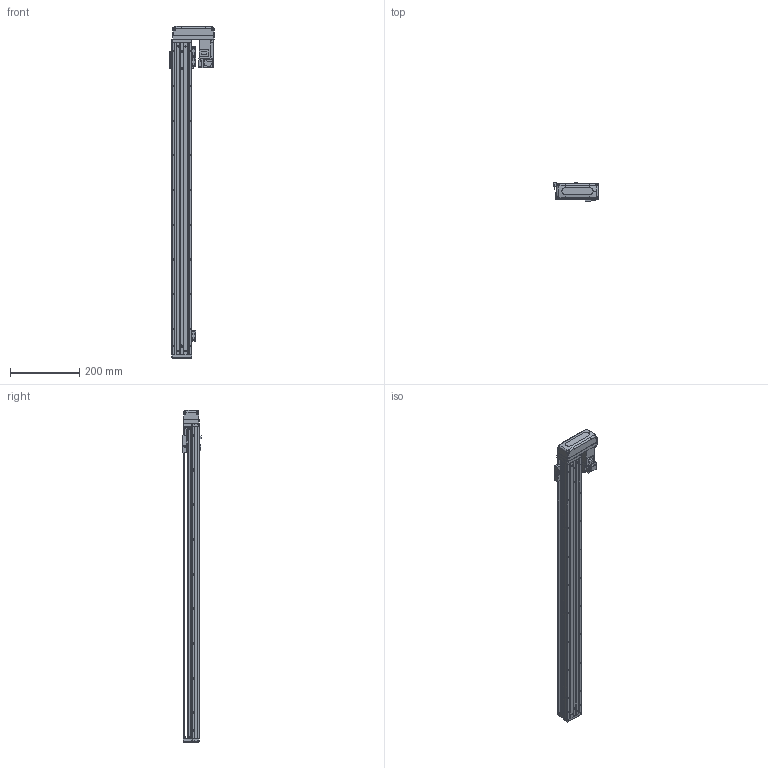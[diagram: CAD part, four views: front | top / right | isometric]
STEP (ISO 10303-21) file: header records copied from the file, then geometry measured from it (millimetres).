
FILE_DESCRIPTION (( 'STEP AP203' ), '1' );
FILE_NAME ('KTHA50-800-BL-M10-C4L.step', '2022-03-19T07:07:57', ( '微软用户' ), ( '微软中国' ), 'SwSTEP 2.0', 'SolidWorks 2020', '' );
FILE_SCHEMA (( 'CONFIG_CONTROL_DESIGN' ));
Length unit declared in the file: millimetre
Products named in the file (18): GBT 70.1-M3×15; KTHA50-005; CTHA60-016; KTHA50-800-BL-M10-C4L; GB¨uT 70.2-M3¡Á6_M3¡Á6; CTHA60-021; EE_SX911P_R; GBT 70.3-M3℅6; GBT77-2000 M3×3; HG-KR13（三菱）; KTHA50-001_900; GBT 70.1-M3℅6; CTHA50-015-2_CTHA60-015-2; KTHA50-002; CTHA60-017; CTHA60-033; KTHA50-004; GBT 70.1-M4×12
Assembly tree (53 placements, depth 2):
  KTHA50-800-BL-M10-C4L
    KTHA50-001_900
    KTHA50-002
    KTHA50-004
    KTHA50-005
    GB¨uT 70.2-M3¡Á6_M3¡Á6  x6
    EE_SX911P_R  x3
    GBT77-2000 M3×3  x6
    GBT 70.1-M3℅6  x6
    CTHA60-017  x3
    GBT 70.1-M4×12  x10
    CTHA60-016  x2
    CTHA60-021  x2
    GBT 70.3-M3℅6  x4
    HG-KR13（三菱）
    CTHA50-015-2_CTHA60-015-2
    CTHA60-033
    GBT 70.1-M3×15  x4
Bounding box: 128.4 x 53.3 x 957 mm (x, y, z)
Volume: 1816490.6 mm3; surface area: 443920.2 mm2
Topology: 56 solids, 56 shells, 2343 faces, 5575 edges, 3424 vertices
Faces by surface type: plane 1312, cylinder 574, cone 315, torus 100, bspline 26, sphere 16
Entity records: 40819 total; most frequent: CARTESIAN_POINT 7682, DIRECTION 6405, ORIENTED_EDGE 6162, EDGE_CURVE 3081, AXIS2_PLACEMENT_3D 2163, LINE 2079, VECTOR 2079, VERTEX_POINT 1938
